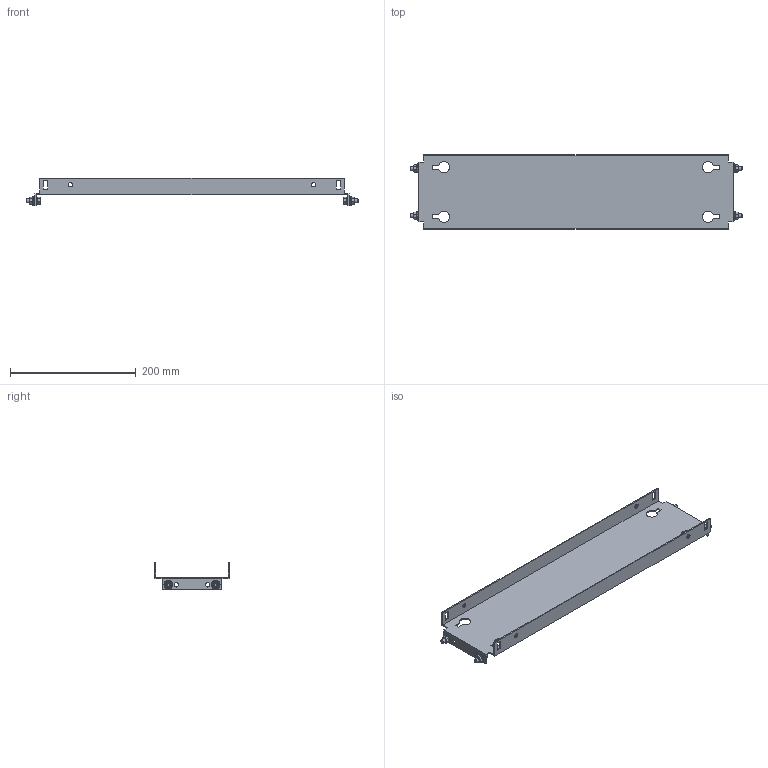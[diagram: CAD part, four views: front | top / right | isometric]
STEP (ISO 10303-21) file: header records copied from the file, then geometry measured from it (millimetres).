
FILE_DESCRIPTION(('Open CASCADE Model'),'2;1');
FILE_NAME('Open CASCADE Shape Model','2025-02-20T13:24:37',('Author'),( 'Open CASCADE'),'Open CASCADE STEP processor 7.8','Open CASCADE 7.8' ,'Unknown');
FILE_SCHEMA(('AUTOMOTIVE_DESIGN { 1 0 10303 214 1 1 1 1 }'));
Length unit declared in the file: millimetre
Products named in the file (4): Compound1; Solid1; Solid2; Solid3
Assembly tree (9 placements, depth 2):
  Compound1
    Solid1
    Solid2  x4
    Solid3  x4
Bounding box: 528 x 119 x 43 mm (x, y, z)
Volume: 173303.7 mm3; surface area: 176605.8 mm2
Topology: 9 solids, 9 shells, 306 faces, 746 edges, 462 vertices
Faces by surface type: plane 150, cone 68, bspline 48, cylinder 28, torus 12
Full cylindrical faces by diameter (mm): 5 x4, 6 x8, 7 x12
Entity records: 4844 total; most frequent: CARTESIAN_POINT 1361, ORIENTED_EDGE 742, DIRECTION 628, EDGE_CURVE 371, VERTEX_POINT 240, LINE 216, VECTOR 216, AXIS2_PLACEMENT_3D 206
